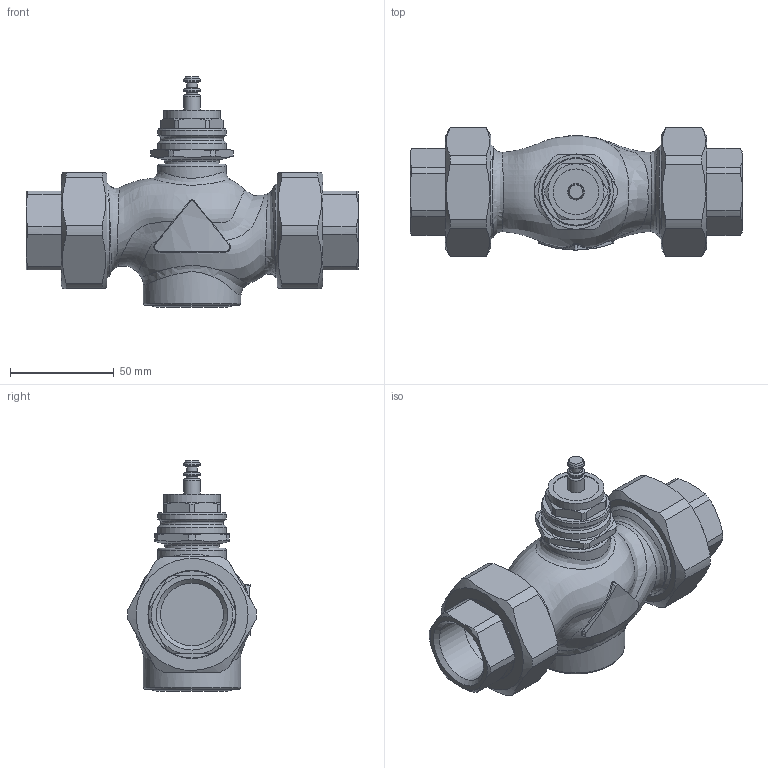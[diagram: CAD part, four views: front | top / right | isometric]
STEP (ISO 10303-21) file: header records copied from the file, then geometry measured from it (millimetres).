
FILE_DESCRIPTION(/* description */ (''),/* implementation_level */ '2;1');
FILE_NAME(/* name */ 'rv111s_dn25_2_T.stp',/* time_stamp */ '2012-02-27T14:57:12+01:00',/* author */ ('KLIMES'),/* organization */ ('LDM'),/* preprocessor_version */ 'ST-DEVELOPER v11',/* originating_system */ 'SIEMENS PLM Software NX 7.0',/* authorisation */ '');
FILE_SCHEMA (('CONFIG_CONTROL_DESIGN'));
Length unit declared in the file: millimetre
Products named in the file (1): klimEE991wfs
Bounding box: 160 x 61.98 x 111.05 mm (x, y, z)
Volume: 317878.4 mm3; surface area: 64197 mm2
Topology: 7 solids, 7 shells, 218 faces, 519 edges, 333 vertices
Faces by surface type: plane 83, cylinder 59, cone 44, bspline 20, torus 12
Full cylindrical faces by diameter (mm): 5.3 x1, 5.5 x1, 8 x3, 22 x1, 26.5 x1, 27 x1, 30.291 x2, 33 x7, 40 x1, 42 x2, 42.5 x2, 44 x2, 44.5 x2, 44.845 x2, 47 x1, 47.8 x2
Entity records: 11499 total; most frequent: CARTESIAN_POINT 6973, DIRECTION 888, ORIENTED_EDGE 844, EDGE_CURVE 422, AXIS2_PLACEMENT_3D 390, EDGE_LOOP 314, VERTEX_POINT 302, ADVANCED_FACE 218
